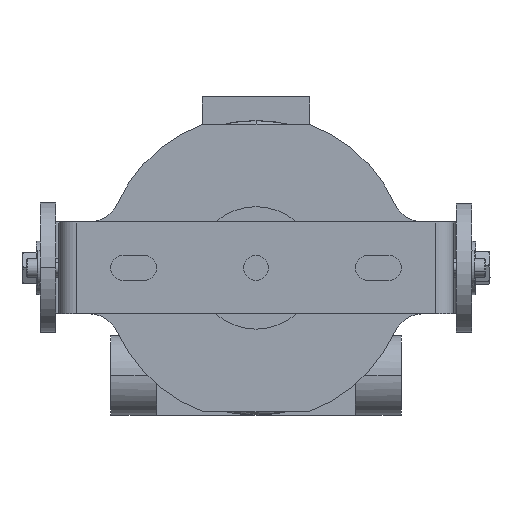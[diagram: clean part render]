
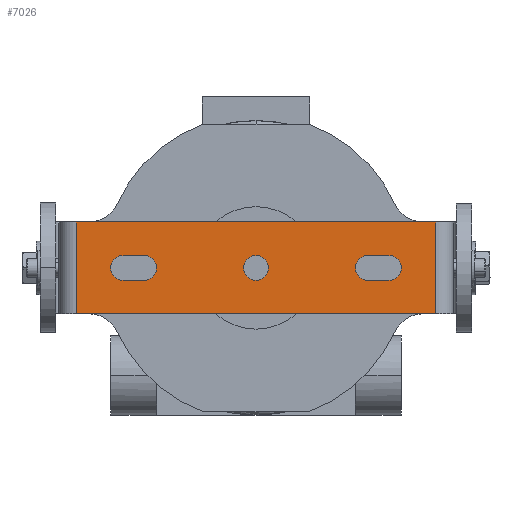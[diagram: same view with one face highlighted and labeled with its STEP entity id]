
A CAD part, front view. The second image highlights one B-rep face of the part: STEP entity #7026.
In plain terms, the highlighted planar face has unit normal (0, -1, 0).
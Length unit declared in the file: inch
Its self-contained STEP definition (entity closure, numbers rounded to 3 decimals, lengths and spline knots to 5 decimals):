
#249 = EDGE_CURVE ( 'NONE', #17344, #15928, #3964, .T. ) ;
#287 = EDGE_CURVE ( 'NONE', #17003, #16140, #4621, .T. ) ;
#299 = VERTEX_POINT ( 'NONE', #11527 ) ;
#304 = DIRECTION ( 'NONE',  ( 0., 0., 1. ) ) ;
#380 = DIRECTION ( 'NONE',  ( 0., 0., 1. ) ) ;
#383 = EDGE_CURVE ( 'NONE', #4648, #17344, #3333, .T. ) ;
#464 = EDGE_CURVE ( 'NONE', #11961, #532, #7846, .T. ) ;
#532 = VERTEX_POINT ( 'NONE', #11628 ) ;
#534 = DIRECTION ( 'NONE',  ( 0., 1., 0. ) ) ;
#546 = DIRECTION ( 'NONE',  ( 0., 1., 0. ) ) ;
#671 = DIRECTION ( 'NONE',  ( 0., 1., 0. ) ) ;
#711 = AXIS2_PLACEMENT_3D ( 'NONE', #6337, #534, #14495 ) ;
#917 = ORIENTED_EDGE ( 'NONE', *, *, #17337, .T. ) ;
#930 = DIRECTION ( 'NONE',  ( 0., 1., 0. ) ) ;
#972 = EDGE_CURVE ( 'NONE', #299, #3759, #7792, .T. ) ;
#1641 = PLANE ( 'NONE',  #3985 ) ;
#1683 = ORIENTED_EDGE ( 'NONE', *, *, #383, .T. ) ;
#1863 = VECTOR ( 'NONE', #9128, 39.37008 ) ;
#1865 = DIRECTION ( 'NONE',  ( 0., 0., 1. ) ) ;
#1866 = DIRECTION ( 'NONE',  ( 0., 0., -1. ) ) ;
#1879 = ORIENTED_EDGE ( 'NONE', *, *, #9015, .T. ) ;
#1890 = VECTOR ( 'NONE', #14182, 39.37008 ) ;
#1963 = EDGE_CURVE ( 'NONE', #4581, #5889, #12768, .T. ) ;
#2353 = ORIENTED_EDGE ( 'NONE', *, *, #12012, .T. ) ;
#2525 = CIRCLE ( 'NONE', #16363, 0.203 ) ;
#2548 = EDGE_LOOP ( 'NONE', ( #12116, #8598, #7881, #917, #12496 ) ) ;
#2581 = CARTESIAN_POINT ( 'NONE',  ( -0.203, -0.1875, -1.8281 ) ) ;
#2681 = VECTOR ( 'NONE', #9426, 39.37008 ) ;
#2986 = CARTESIAN_POINT ( 'NONE',  ( 0.203, -0.1875, 2.1719 ) ) ;
#3237 = EDGE_LOOP ( 'NONE', ( #15734, #1683, #4332, #1879, #11917 ) ) ;
#3333 = CIRCLE ( 'NONE', #7941, 0.203 ) ;
#3486 = CARTESIAN_POINT ( 'NONE',  ( 0.203, -0.1875, -2.1719 ) ) ;
#3625 = DIRECTION ( 'NONE',  ( 0., 1., 0. ) ) ;
#3727 = CIRCLE ( 'NONE', #10423, 0.203 ) ;
#3759 = VERTEX_POINT ( 'NONE', #6862 ) ;
#3795 = DIRECTION ( 'NONE',  ( 0., 1., 0. ) ) ;
#3964 = CIRCLE ( 'NONE', #16388, 0.203 ) ;
#3985 = AXIS2_PLACEMENT_3D ( 'NONE', #8483, #9627, #9211 ) ;
#4017 = EDGE_LOOP ( 'NONE', ( #16551, #2353, #11882, #6599 ) ) ;
#4038 = EDGE_CURVE ( 'NONE', #532, #12722, #8863, .T. ) ;
#4332 = ORIENTED_EDGE ( 'NONE', *, *, #249, .T. ) ;
#4417 = CARTESIAN_POINT ( 'NONE',  ( 0., -0.1875, 0.2031 ) ) ;
#4456 = EDGE_CURVE ( 'NONE', #6223, #14178, #5558, .T. ) ;
#4581 = VERTEX_POINT ( 'NONE', #7396 ) ;
#4621 = LINE ( 'NONE', #17327, #9477 ) ;
#4648 = VERTEX_POINT ( 'NONE', #8340 ) ;
#4680 = CARTESIAN_POINT ( 'NONE',  ( 0., -0.1875, -0.2031 ) ) ;
#4980 = LINE ( 'NONE', #17031, #13566 ) ;
#5032 = CARTESIAN_POINT ( 'NONE',  ( 0.203, -0.1875, -1.8281 ) ) ;
#5221 = CARTESIAN_POINT ( 'NONE',  ( 0., -0.1875, 2.1719 ) ) ;
#5558 = CIRCLE ( 'NONE', #711, 0.2031 ) ;
#5889 = VERTEX_POINT ( 'NONE', #5032 ) ;
#6223 = VERTEX_POINT ( 'NONE', #4680 ) ;
#6266 = LINE ( 'NONE', #12206, #2681 ) ;
#6268 = FACE_OUTER_BOUND ( 'NONE', #4017, .T. ) ;
#6337 = CARTESIAN_POINT ( 'NONE',  ( 0., -0.1875, 0. ) ) ;
#6338 = CARTESIAN_POINT ( 'NONE',  ( 0.203, -0.1875, -2.1719 ) ) ;
#6391 = LINE ( 'NONE', #11924, #9060 ) ;
#6462 = EDGE_CURVE ( 'NONE', #17339, #17003, #2525, .T. ) ;
#6599 = ORIENTED_EDGE ( 'NONE', *, *, #4038, .F. ) ;
#6862 = CARTESIAN_POINT ( 'NONE',  ( -0.203, -0.1875, 1.8281 ) ) ;
#7026 = ADVANCED_FACE ( 'NONE', ( #13929, #10331, #17482, #6268 ), #1641, .F. ) ;
#7054 = ORIENTED_EDGE ( 'NONE', *, *, #15788, .T. ) ;
#7192 = AXIS2_PLACEMENT_3D ( 'NONE', #11455, #3795, #14932 ) ;
#7396 = CARTESIAN_POINT ( 'NONE',  ( 0., -0.1875, -1.6251 ) ) ;
#7402 = AXIS2_PLACEMENT_3D ( 'NONE', #10082, #546, #8711 ) ;
#7730 = CARTESIAN_POINT ( 'NONE',  ( 0., -0.1875, 2.1719 ) ) ;
#7792 = CIRCLE ( 'NONE', #12376, 0.203 ) ;
#7846 = LINE ( 'NONE', #14406, #1863 ) ;
#7881 = ORIENTED_EDGE ( 'NONE', *, *, #287, .T. ) ;
#7941 = AXIS2_PLACEMENT_3D ( 'NONE', #7730, #3625, #13628 ) ;
#8021 = VERTEX_POINT ( 'NONE', #13504 ) ;
#8263 = LINE ( 'NONE', #12641, #15546 ) ;
#8340 = CARTESIAN_POINT ( 'NONE',  ( -0.203, -0.1875, 2.1719 ) ) ;
#8483 = CARTESIAN_POINT ( 'NONE',  ( 0., -0.1875, 4.96593 ) ) ;
#8598 = ORIENTED_EDGE ( 'NONE', *, *, #6462, .T. ) ;
#8711 = DIRECTION ( 'NONE',  ( 0., 0., 1. ) ) ;
#8755 = EDGE_CURVE ( 'NONE', #5889, #17339, #13970, .T. ) ;
#8863 = LINE ( 'NONE', #14555, #1890 ) ;
#8871 = CARTESIAN_POINT ( 'NONE',  ( 0.75, -0.1875, 2.9375 ) ) ;
#9015 = EDGE_CURVE ( 'NONE', #15928, #299, #8263, .T. ) ;
#9047 = EDGE_LOOP ( 'NONE', ( #7054, #16533 ) ) ;
#9060 = VECTOR ( 'NONE', #13414, 39.37008 ) ;
#9092 = CARTESIAN_POINT ( 'NONE',  ( 0., -0.1875, -1.8281 ) ) ;
#9128 = DIRECTION ( 'NONE',  ( 0., 0., -1. ) ) ;
#9211 = DIRECTION ( 'NONE',  ( 0., 0., 1. ) ) ;
#9413 = CARTESIAN_POINT ( 'NONE',  ( 0., -0.1875, -2.1719 ) ) ;
#9426 = DIRECTION ( 'NONE',  ( 0., 0., 1. ) ) ;
#9477 = VECTOR ( 'NONE', #1865, 39.37008 ) ;
#9627 = DIRECTION ( 'NONE',  ( 0., 1., 0. ) ) ;
#10082 = CARTESIAN_POINT ( 'NONE',  ( 0., -0.1875, 0. ) ) ;
#10331 = FACE_BOUND ( 'NONE', #3237, .T. ) ;
#10423 = AXIS2_PLACEMENT_3D ( 'NONE', #9092, #15636, #380 ) ;
#10525 = DIRECTION ( 'NONE',  ( 0., 1., 0. ) ) ;
#10920 = VECTOR ( 'NONE', #14480, 39.37008 ) ;
#11455 = CARTESIAN_POINT ( 'NONE',  ( 0., -0.1875, -1.8281 ) ) ;
#11527 = CARTESIAN_POINT ( 'NONE',  ( 0.203, -0.1875, 1.8281 ) ) ;
#11628 = CARTESIAN_POINT ( 'NONE',  ( 0.75, -0.1875, -2.9375 ) ) ;
#11882 = ORIENTED_EDGE ( 'NONE', *, *, #14653, .F. ) ;
#11917 = ORIENTED_EDGE ( 'NONE', *, *, #972, .T. ) ;
#11924 = CARTESIAN_POINT ( 'NONE',  ( 0., -0.1875, 2.9375 ) ) ;
#11961 = VERTEX_POINT ( 'NONE', #8871 ) ;
#12012 = EDGE_CURVE ( 'NONE', #11961, #8021, #6391, .T. ) ;
#12116 = ORIENTED_EDGE ( 'NONE', *, *, #8755, .T. ) ;
#12206 = CARTESIAN_POINT ( 'NONE',  ( -0.75, -0.1875, 4.26593 ) ) ;
#12252 = DIRECTION ( 'NONE',  ( 0., 0., 1. ) ) ;
#12376 = AXIS2_PLACEMENT_3D ( 'NONE', #15204, #10525, #13252 ) ;
#12496 = ORIENTED_EDGE ( 'NONE', *, *, #1963, .T. ) ;
#12641 = CARTESIAN_POINT ( 'NONE',  ( 0.203, -0.1875, 2.1719 ) ) ;
#12722 = VERTEX_POINT ( 'NONE', #17301 ) ;
#12768 = CIRCLE ( 'NONE', #7192, 0.203 ) ;
#13252 = DIRECTION ( 'NONE',  ( 0., 0., -1. ) ) ;
#13414 = DIRECTION ( 'NONE',  ( -1., 0., 0. ) ) ;
#13447 = CARTESIAN_POINT ( 'NONE',  ( -0.203, -0.1875, -2.1719 ) ) ;
#13504 = CARTESIAN_POINT ( 'NONE',  ( -0.75, -0.1875, 2.9375 ) ) ;
#13566 = VECTOR ( 'NONE', #304, 39.37008 ) ;
#13628 = DIRECTION ( 'NONE',  ( 0., 0., -1. ) ) ;
#13929 = FACE_BOUND ( 'NONE', #2548, .T. ) ;
#13970 = LINE ( 'NONE', #6338, #10920 ) ;
#14178 = VERTEX_POINT ( 'NONE', #4417 ) ;
#14182 = DIRECTION ( 'NONE',  ( -1., 0., 0. ) ) ;
#14406 = CARTESIAN_POINT ( 'NONE',  ( 0.75, -0.1875, -4.26593 ) ) ;
#14480 = DIRECTION ( 'NONE',  ( 0., 0., -1. ) ) ;
#14484 = DIRECTION ( 'NONE',  ( 0., 0., -1. ) ) ;
#14495 = DIRECTION ( 'NONE',  ( 0., 0., 1. ) ) ;
#14555 = CARTESIAN_POINT ( 'NONE',  ( 0., -0.1875, -2.9375 ) ) ;
#14653 = EDGE_CURVE ( 'NONE', #12722, #8021, #6266, .T. ) ;
#14932 = DIRECTION ( 'NONE',  ( 0., 0., 1. ) ) ;
#15204 = CARTESIAN_POINT ( 'NONE',  ( 0., -0.1875, 1.8281 ) ) ;
#15546 = VECTOR ( 'NONE', #1866, 39.37008 ) ;
#15597 = CIRCLE ( 'NONE', #7402, 0.2031 ) ;
#15636 = DIRECTION ( 'NONE',  ( 0., 1., 0. ) ) ;
#15734 = ORIENTED_EDGE ( 'NONE', *, *, #17233, .T. ) ;
#15788 = EDGE_CURVE ( 'NONE', #14178, #6223, #15597, .T. ) ;
#15928 = VERTEX_POINT ( 'NONE', #2986 ) ;
#16140 = VERTEX_POINT ( 'NONE', #2581 ) ;
#16363 = AXIS2_PLACEMENT_3D ( 'NONE', #9413, #930, #12252 ) ;
#16388 = AXIS2_PLACEMENT_3D ( 'NONE', #5221, #671, #14484 ) ;
#16533 = ORIENTED_EDGE ( 'NONE', *, *, #4456, .T. ) ;
#16551 = ORIENTED_EDGE ( 'NONE', *, *, #464, .F. ) ;
#16760 = CARTESIAN_POINT ( 'NONE',  ( 0., -0.1875, 2.3749 ) ) ;
#17003 = VERTEX_POINT ( 'NONE', #13447 ) ;
#17031 = CARTESIAN_POINT ( 'NONE',  ( -0.203, -0.1875, 2.1719 ) ) ;
#17233 = EDGE_CURVE ( 'NONE', #3759, #4648, #4980, .T. ) ;
#17301 = CARTESIAN_POINT ( 'NONE',  ( -0.75, -0.1875, -2.9375 ) ) ;
#17327 = CARTESIAN_POINT ( 'NONE',  ( -0.203, -0.1875, -2.1719 ) ) ;
#17337 = EDGE_CURVE ( 'NONE', #16140, #4581, #3727, .T. ) ;
#17339 = VERTEX_POINT ( 'NONE', #3486 ) ;
#17344 = VERTEX_POINT ( 'NONE', #16760 ) ;
#17482 = FACE_BOUND ( 'NONE', #9047, .T. ) ;
